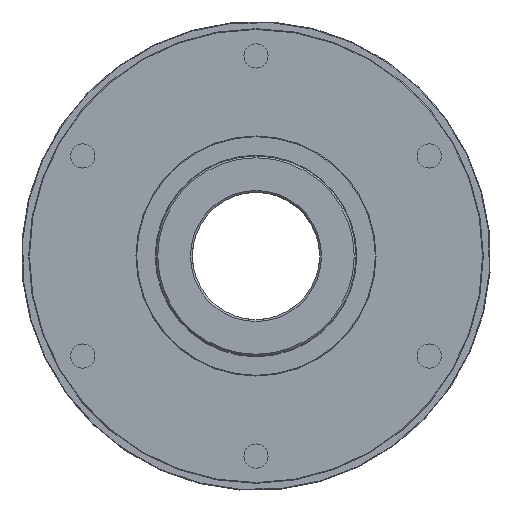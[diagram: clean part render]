
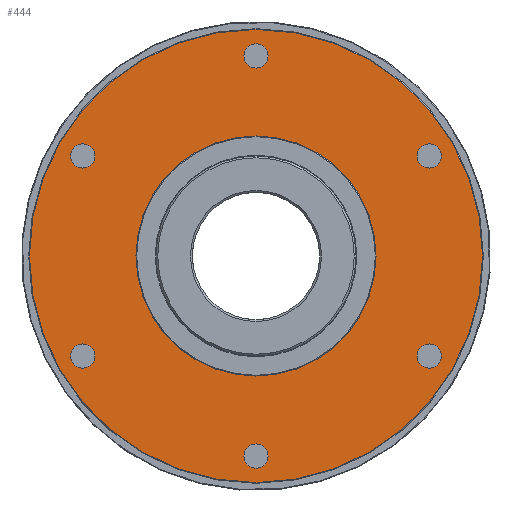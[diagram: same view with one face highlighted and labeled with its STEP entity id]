
A CAD part, left-side view. The second image highlights one B-rep face of the part: STEP entity #444.
In plain terms, the highlighted planar face has unit normal (-1, 0, 0).
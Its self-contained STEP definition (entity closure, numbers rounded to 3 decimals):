
#444 = ADVANCED_FACE( '', ( #916, #917, #918, #919, #920, #921, #922, #923 ), #924, .T. );
#916 = FACE_BOUND( '', #1612, .T. );
#917 = FACE_BOUND( '', #1613, .T. );
#918 = FACE_BOUND( '', #1614, .T. );
#919 = FACE_BOUND( '', #1615, .T. );
#920 = FACE_BOUND( '', #1616, .T. );
#921 = FACE_BOUND( '', #1617, .T. );
#922 = FACE_OUTER_BOUND( '', #1618, .T. );
#923 = FACE_BOUND( '', #1619, .T. );
#924 = PLANE( '', #1620 );
#1612 = EDGE_LOOP( '', ( #2289 ) );
#1613 = EDGE_LOOP( '', ( #2290 ) );
#1614 = EDGE_LOOP( '', ( #2291 ) );
#1615 = EDGE_LOOP( '', ( #2292 ) );
#1616 = EDGE_LOOP( '', ( #2293 ) );
#1617 = EDGE_LOOP( '', ( #2294 ) );
#1618 = EDGE_LOOP( '', ( #2295 ) );
#1619 = EDGE_LOOP( '', ( #2296 ) );
#1620 = AXIS2_PLACEMENT_3D( '', #2297, #2298, #2299 );
#2289 = ORIENTED_EDGE( '', *, *, #3358, .T. );
#2290 = ORIENTED_EDGE( '', *, *, #3359, .T. );
#2291 = ORIENTED_EDGE( '', *, *, #3360, .T. );
#2292 = ORIENTED_EDGE( '', *, *, #3361, .T. );
#2293 = ORIENTED_EDGE( '', *, *, #3362, .T. );
#2294 = ORIENTED_EDGE( '', *, *, #3363, .T. );
#2295 = ORIENTED_EDGE( '', *, *, #3364, .T. );
#2296 = ORIENTED_EDGE( '', *, *, #3365, .F. );
#2297 = CARTESIAN_POINT( '', ( 29.5, 0., 33. ) );
#2298 = DIRECTION( '', ( -1., 0., 0. ) );
#2299 = DIRECTION( '', ( 0., 0., 1. ) );
#3358 = EDGE_CURVE( '', #3782, #3782, #3783, .T. );
#3359 = EDGE_CURVE( '', #3784, #3784, #3785, .T. );
#3360 = EDGE_CURVE( '', #3786, #3786, #3787, .T. );
#3361 = EDGE_CURVE( '', #3788, #3788, #3789, .T. );
#3362 = EDGE_CURVE( '', #3790, #3790, #3791, .T. );
#3363 = EDGE_CURVE( '', #3792, #3792, #3793, .T. );
#3364 = EDGE_CURVE( '', #3794, #3794, #3795, .T. );
#3365 = EDGE_CURVE( '', #3796, #3796, #3797, .T. );
#3782 = VERTEX_POINT( '', #4389 );
#3783 = CIRCLE( '', #4390, 3.324 );
#3784 = VERTEX_POINT( '', #4391 );
#3785 = CIRCLE( '', #4392, 3.324 );
#3786 = VERTEX_POINT( '', #4393 );
#3787 = CIRCLE( '', #4394, 3.324 );
#3788 = VERTEX_POINT( '', #4395 );
#3789 = CIRCLE( '', #4396, 3.324 );
#3790 = VERTEX_POINT( '', #4397 );
#3791 = CIRCLE( '', #4398, 3.324 );
#3792 = VERTEX_POINT( '', #4399 );
#3793 = CIRCLE( '', #4400, 3.324 );
#3794 = VERTEX_POINT( '', #4401 );
#3795 = CIRCLE( '', #4402, 62.3 );
#3796 = VERTEX_POINT( '', #4403 );
#3797 = CIRCLE( '', #4404, 33. );
#4389 = CARTESIAN_POINT( '', ( 29.5, 50.51, 29.162 ) );
#4390 = AXIS2_PLACEMENT_3D( '', #5404, #5405, #5406 );
#4391 = CARTESIAN_POINT( '', ( 29.5, 50.51, -29.162 ) );
#4392 = AXIS2_PLACEMENT_3D( '', #5407, #5408, #5409 );
#4393 = CARTESIAN_POINT( '', ( 29.5, 0., -58.324 ) );
#4394 = AXIS2_PLACEMENT_3D( '', #5410, #5411, #5412 );
#4395 = CARTESIAN_POINT( '', ( 29.5, -50.51, -29.162 ) );
#4396 = AXIS2_PLACEMENT_3D( '', #5413, #5414, #5415 );
#4397 = CARTESIAN_POINT( '', ( 29.5, -50.51, 29.162 ) );
#4398 = AXIS2_PLACEMENT_3D( '', #5416, #5417, #5418 );
#4399 = CARTESIAN_POINT( '', ( 29.5, 0., 58.324 ) );
#4400 = AXIS2_PLACEMENT_3D( '', #5419, #5420, #5421 );
#4401 = CARTESIAN_POINT( '', ( 29.5, 0., 62.3 ) );
#4402 = AXIS2_PLACEMENT_3D( '', #5422, #5423, #5424 );
#4403 = CARTESIAN_POINT( '', ( 29.5, 0., 33. ) );
#4404 = AXIS2_PLACEMENT_3D( '', #5425, #5426, #5427 );
#5404 = CARTESIAN_POINT( '', ( 29.5, 47.631, 27.5 ) );
#5405 = DIRECTION( '', ( 1., 0., 0. ) );
#5406 = DIRECTION( '', ( 0., 0.866, 0.5 ) );
#5407 = CARTESIAN_POINT( '', ( 29.5, 47.631, -27.5 ) );
#5408 = DIRECTION( '', ( 1., 0., 0. ) );
#5409 = DIRECTION( '', ( 0., 0.866, -0.5 ) );
#5410 = CARTESIAN_POINT( '', ( 29.5, 0., -55. ) );
#5411 = DIRECTION( '', ( 1., 0., 0. ) );
#5412 = DIRECTION( '', ( 0., 0., -1. ) );
#5413 = CARTESIAN_POINT( '', ( 29.5, -47.631, -27.5 ) );
#5414 = DIRECTION( '', ( 1., 0., 0. ) );
#5415 = DIRECTION( '', ( 0., -0.866, -0.5 ) );
#5416 = CARTESIAN_POINT( '', ( 29.5, -47.631, 27.5 ) );
#5417 = DIRECTION( '', ( 1., 0., 0. ) );
#5418 = DIRECTION( '', ( 0., -0.866, 0.5 ) );
#5419 = CARTESIAN_POINT( '', ( 29.5, 0., 55. ) );
#5420 = DIRECTION( '', ( 1., 0., 0. ) );
#5421 = DIRECTION( '', ( 0., 0., 1. ) );
#5422 = CARTESIAN_POINT( '', ( 29.5, 0., 0. ) );
#5423 = DIRECTION( '', ( -1., 0., 0. ) );
#5424 = DIRECTION( '', ( 0., 0., 1. ) );
#5425 = CARTESIAN_POINT( '', ( 29.5, 0., 0. ) );
#5426 = DIRECTION( '', ( -1., 0., 0. ) );
#5427 = DIRECTION( '', ( 0., 0., 1. ) );
